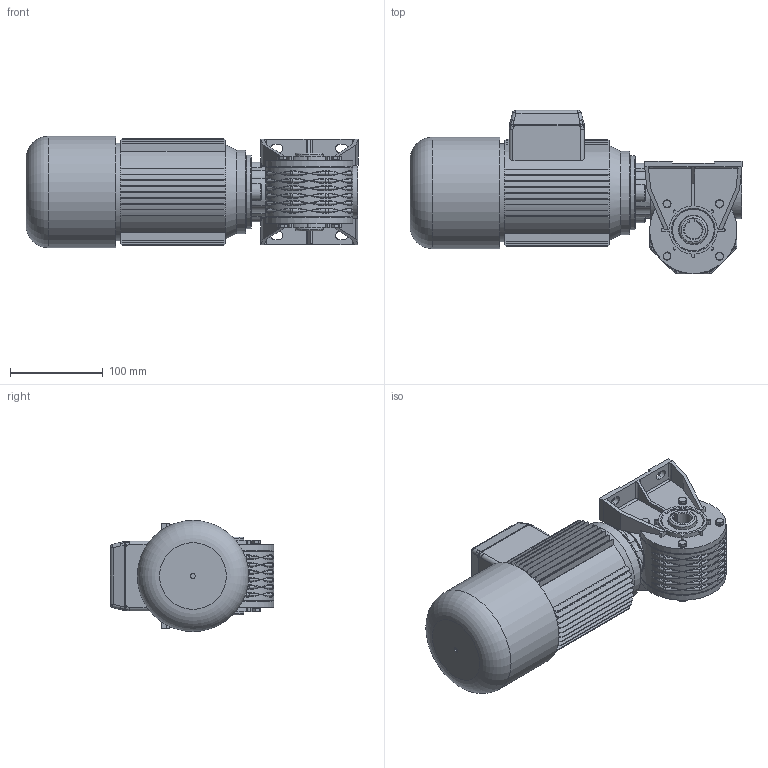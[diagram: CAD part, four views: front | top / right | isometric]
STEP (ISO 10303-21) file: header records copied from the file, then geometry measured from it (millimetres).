
FILE_DESCRIPTION((''),'2;1');
FILE_NAME('Y:\Archivi Inventor\Prog_01\GRAND_05\Figurini\MRV05 VECCHIO\56 B14 - B\MRV05_PAM56B14_P1_B.stp','2014-01-14T11:50:59',('tech3'),(''),'Autodesk Inventor 2013','Autodesk Inventor 2013','');
FILE_SCHEMA(('AUTOMOTIVE_DESIGN { 1 0 10303 214 1 1 1 1 }'));
Length unit declared in the file: millimetre
Products named in the file (18): Assieme1; V05_PRIMARIO; 0100501-A1xfigurini; 0100529-A0; RCA_35x7; 0100528-A0; PARAOLIO 20x30x8; Guarnizione 3_8 GAS; UNI 6592 5.3 x 10; PARAOLIO 30x45x8; DIN EN 24 017  M5 x 16; Tappo 3_8 GAS_esagn_incsst; Corona MRV05 F=19 x figurini; UNI 5931  M 5 x  16; 0100510; DIN EN 24017 M5 x 16; 0100506; motori B14 brake 56
Assembly tree (29 placements, depth 3):
  Assieme1
    V05_PRIMARIO
      0100501-A1xfigurini
      0100529-A0  x2
      RCA_35x7
      0100528-A0
      PARAOLIO 20x30x8
      Guarnizione 3_8 GAS
      UNI 6592 5.3 x 10
      PARAOLIO 30x45x8  x2
      DIN EN 24 017  M5 x 16  x4
      Tappo 3_8 GAS_esagn_incsst
      Corona MRV05 F=19 x figurini
      UNI 5931  M 5 x  16  x4
      0100510  x2
      DIN EN 24017 M5 x 16  x4
    0100506
    motori B14 brake 56
Bounding box: 357.85 x 176 x 120 mm (x, y, z)
Volume: 2324007.3 mm3; surface area: 407216.1 mm2
Topology: 29 solids, 29 shells, 1332 faces, 3181 edges, 1965 vertices
Faces by surface type: plane 698, cylinder 342, cone 102, torus 94, bspline 92, sphere 4
Full cylindrical faces by diameter (mm): 4.134 x16, 5 x13, 5.3 x1, 5.5 x24, 5.75 x4, 6.88 x8, 8 x1, 8.5 x12, 9 x1, 10 x1, 14.95 x1, 16.3 x1, 16.5 x1, 22 x2, 23.105 x1, 28 x1, 30 x4, 30.8 x1, 34.105 x2, 35 x5, 42 x2, 45 x4, 50 x1, 55 x1, 56 x2, 63 x2, 70 x6, 80 x1, 90 x1, 93.5 x2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
Entity records: 58607 total; most frequent: CARTESIAN_POINT 33815, DIRECTION 5047, ORIENTED_EDGE 4788, EDGE_CURVE 2394, AXIS2_PLACEMENT_3D 1939, VERTEX_POINT 1553, EDGE_LOOP 1313, VECTOR 1169
